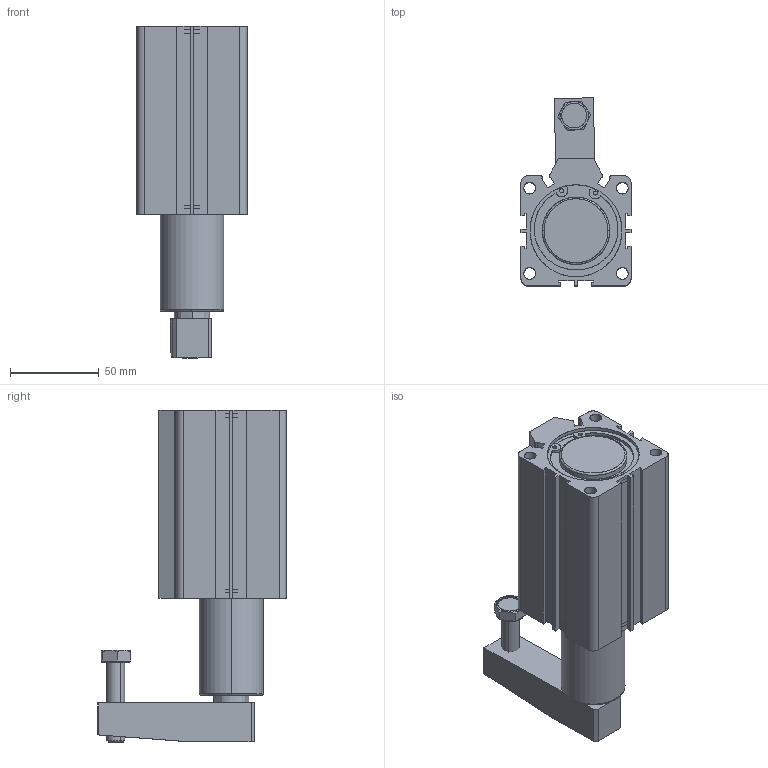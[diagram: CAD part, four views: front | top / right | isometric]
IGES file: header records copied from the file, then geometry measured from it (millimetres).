
Start section: SolidWorks IGES file using analytic representation for surfaces
Global section: file name: C:\Users\cagdas\Desktop\MKA50.IGS; native system: SolidWorks 2018; preprocessor: SolidWorks 2018; author: cagdas; date: 181210.114000; units: millimetre
Bounding box: 62 x 106.16 x 186.95 mm (x, y, z)
Surface area: 129626.3 mm2 (no closed solid volume)
Topology: 0 solids, 0 shells, 376 faces, 6993 edges, 6991 vertices
Faces by surface type: revolution 195, bspline 181
